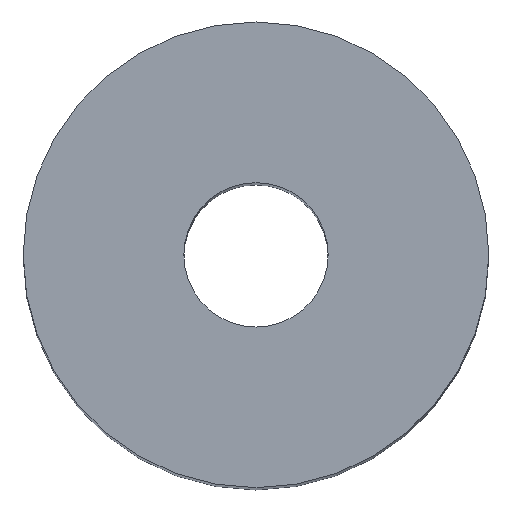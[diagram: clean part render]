
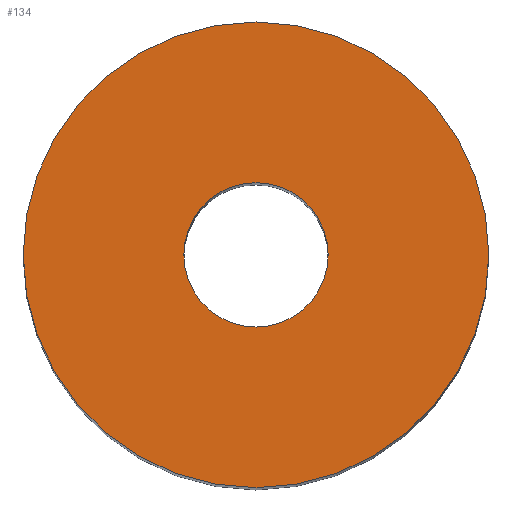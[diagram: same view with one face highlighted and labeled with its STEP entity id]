
A CAD part, top view. The second image highlights one B-rep face of the part: STEP entity #134.
In plain terms, the highlighted planar face has unit normal (0, 0, 1).
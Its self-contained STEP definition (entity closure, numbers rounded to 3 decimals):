
#29=CARTESIAN_POINT('',(0.,0.,28.5));
#30=DIRECTION('',(0.,0.,1.));
#31=DIRECTION('',(1.,0.,0.));
#32=AXIS2_PLACEMENT_3D('',#29,#30,#31);
#34=CARTESIAN_POINT('',(0.,0.,28.5));
#35=DIRECTION('',(0.,0.,1.));
#36=DIRECTION('',(-1.,0.,0.));
#37=AXIS2_PLACEMENT_3D('',#34,#35,#36);
#39=CARTESIAN_POINT('',(0.,0.,28.5));
#40=DIRECTION('',(0.,0.,-1.));
#41=DIRECTION('',(1.,0.,0.));
#42=AXIS2_PLACEMENT_3D('',#39,#40,#41);
#44=CARTESIAN_POINT('',(0.,0.,28.5));
#45=DIRECTION('',(0.,0.,-1.));
#46=DIRECTION('',(-1.,0.,0.));
#47=AXIS2_PLACEMENT_3D('',#44,#45,#46);
#65=CARTESIAN_POINT('',(10.,0.,28.5));
#66=CARTESIAN_POINT('',(-10.,0.,28.5));
#67=VERTEX_POINT('',#65);
#68=VERTEX_POINT('',#66);
#69=CARTESIAN_POINT('',(3.1,0.,28.5));
#70=CARTESIAN_POINT('',(-3.1,0.,28.5));
#71=VERTEX_POINT('',#69);
#72=VERTEX_POINT('',#70);
#119=CARTESIAN_POINT('',(0.,0.,28.5));
#120=DIRECTION('',(0.,0.,1.));
#121=DIRECTION('',(1.,0.,0.));
#122=AXIS2_PLACEMENT_3D('',#119,#120,#121);
#123=PLANE('',#122);
#124=ORIENTED_EDGE('',*,*,#99,.F.);
#125=ORIENTED_EDGE('',*,*,#113,.F.);
#126=EDGE_LOOP('',(#124,#125));
#127=FACE_OUTER_BOUND('',#126,.F.);
#129=ORIENTED_EDGE('',*,*,#128,.F.);
#131=ORIENTED_EDGE('',*,*,#130,.F.);
#132=EDGE_LOOP('',(#129,#131));
#133=FACE_BOUND('',#132,.F.);
#134=ADVANCED_FACE('',(#127,#133),#123,.T.);
#33=CIRCLE('',#32,10.);
#38=CIRCLE('',#37,10.);
#43=CIRCLE('',#42,3.1);
#48=CIRCLE('',#47,3.1);
#99=EDGE_CURVE('',#67,#68,#33,.T.);
#113=EDGE_CURVE('',#68,#67,#38,.T.);
#128=EDGE_CURVE('',#71,#72,#43,.T.);
#130=EDGE_CURVE('',#72,#71,#48,.T.);
